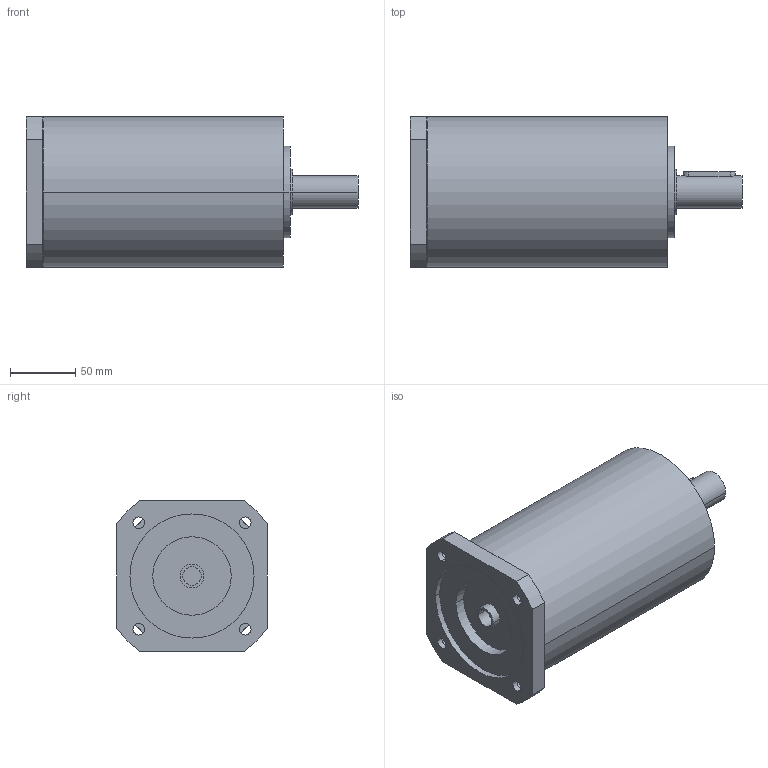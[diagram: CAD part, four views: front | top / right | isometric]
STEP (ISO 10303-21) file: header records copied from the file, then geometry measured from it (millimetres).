
FILE_DESCRIPTION(('CoCreate Modeling STEP Export'),'2;1');
FILE_NAME('GPR125_ig-48-64-80-100-140-196-245-343_25_B14_14_P06.stp','2014-08-26T14:20:44',(''),(''),'CoCreate Modeling STEP processor for AP214 (Solid Model)','CoCreate Modeling 16.00C 25-Feb-2009 (C) Parametric Technology GmbH','');
FILE_SCHEMA(('AUTOMOTIVE_DESIGN { 1 0 10303 214 1 1 1 1 }'));
Length unit declared in the file: millimetre
Products named in the file (2): GPR125_ig-48-64-80-100-140-196-245-343_25_B14_14_P06
Assembly tree (1 placements, depth 2):
  GPR125_ig-48-64-80-100-140-196-245-343_25_B14_14_P06
    GPR125_ig-48-64-80-100-140-196-245-343_25_B14_14_P06
Bounding box: 254 x 115 x 115 mm (x, y, z)
Volume: 2051774.7 mm3; surface area: 112515.9 mm2
Topology: 1 solids, 1 shells, 81 faces, 223 edges, 155 vertices
Faces by surface type: cylinder 48, plane 29, cone 4
Entity records: 2226 total; most frequent: ORIENTED_EDGE 442, CARTESIAN_POINT 408, DIRECTION 300, EDGE_CURVE 221, VERTEX_POINT 155, AXIS2_PLACEMENT_3D 115, EDGE_LOOP 102, FACE_OUTER_BOUND 81
